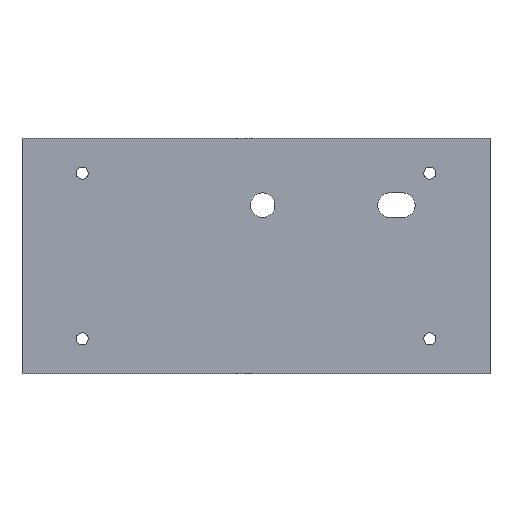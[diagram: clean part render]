
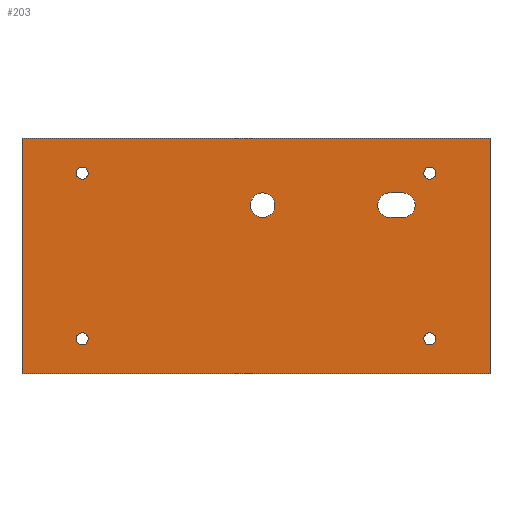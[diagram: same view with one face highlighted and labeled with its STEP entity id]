
A CAD part, top view. The second image highlights one B-rep face of the part: STEP entity #203.
In plain terms, the highlighted planar face has unit normal (0, 0, 1).
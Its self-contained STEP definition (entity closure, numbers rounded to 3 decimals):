
#32 = VERTEX_POINT('',#33);
#33 = CARTESIAN_POINT('',(0.,88.,3.));
#39 = EDGE_CURVE('',#32,#40,#42,.T.);
#40 = VERTEX_POINT('',#41);
#41 = CARTESIAN_POINT('',(0.,0.,3.));
#42 = LINE('',#43,#44);
#43 = CARTESIAN_POINT('',(0.,88.,3.));
#44 = VECTOR('',#45,1.);
#45 = DIRECTION('',(0.,-1.,0.));
#186 = VERTEX_POINT('',#187);
#187 = CARTESIAN_POINT('',(175.,0.,3.));
#193 = EDGE_CURVE('',#40,#186,#194,.T.);
#194 = LINE('',#195,#196);
#195 = CARTESIAN_POINT('',(0.,0.,3.));
#196 = VECTOR('',#197,1.);
#197 = DIRECTION('',(1.,0.,0.));
#203 = ADVANCED_FACE('',(#204,#222,#233,#244,#255,#266,#302),#313,.T.);
#204 = FACE_BOUND('',#205,.T.);
#205 = EDGE_LOOP('',(#206,#214,#215,#216));
#206 = ORIENTED_EDGE('',*,*,#207,.F.);
#207 = EDGE_CURVE('',#32,#208,#210,.T.);
#208 = VERTEX_POINT('',#209);
#209 = CARTESIAN_POINT('',(175.,88.,3.));
#210 = LINE('',#211,#212);
#211 = CARTESIAN_POINT('',(0.,88.,3.));
#212 = VECTOR('',#213,1.);
#213 = DIRECTION('',(1.,0.,0.));
#214 = ORIENTED_EDGE('',*,*,#39,.T.);
#215 = ORIENTED_EDGE('',*,*,#193,.T.);
#216 = ORIENTED_EDGE('',*,*,#217,.F.);
#217 = EDGE_CURVE('',#208,#186,#218,.T.);
#218 = LINE('',#219,#220);
#219 = CARTESIAN_POINT('',(175.,88.,3.));
#220 = VECTOR('',#221,1.);
#221 = DIRECTION('',(0.,-1.,0.));
#222 = FACE_BOUND('',#223,.T.);
#223 = EDGE_LOOP('',(#224));
#224 = ORIENTED_EDGE('',*,*,#225,.F.);
#225 = EDGE_CURVE('',#226,#226,#228,.T.);
#226 = VERTEX_POINT('',#227);
#227 = CARTESIAN_POINT('',(22.5,72.75,3.));
#228 = CIRCLE('',#229,2.25);
#229 = AXIS2_PLACEMENT_3D('',#230,#231,#232);
#230 = CARTESIAN_POINT('',(22.5,75.,3.));
#231 = DIRECTION('',(0.,0.,1.));
#232 = DIRECTION('',(0.,-1.,0.));
#233 = FACE_BOUND('',#234,.T.);
#234 = EDGE_LOOP('',(#235));
#235 = ORIENTED_EDGE('',*,*,#236,.F.);
#236 = EDGE_CURVE('',#237,#237,#239,.T.);
#237 = VERTEX_POINT('',#238);
#238 = CARTESIAN_POINT('',(22.5,10.75,3.));
#239 = CIRCLE('',#240,2.25);
#240 = AXIS2_PLACEMENT_3D('',#241,#242,#243);
#241 = CARTESIAN_POINT('',(22.5,13.,3.));
#242 = DIRECTION('',(0.,0.,1.));
#243 = DIRECTION('',(0.,-1.,0.));
#244 = FACE_BOUND('',#245,.T.);
#245 = EDGE_LOOP('',(#246));
#246 = ORIENTED_EDGE('',*,*,#247,.F.);
#247 = EDGE_CURVE('',#248,#248,#250,.T.);
#248 = VERTEX_POINT('',#249);
#249 = CARTESIAN_POINT('',(90.,58.4,3.));
#250 = CIRCLE('',#251,4.6);
#251 = AXIS2_PLACEMENT_3D('',#252,#253,#254);
#252 = CARTESIAN_POINT('',(90.,63.,3.));
#253 = DIRECTION('',(0.,0.,1.));
#254 = DIRECTION('',(0.,-1.,0.));
#255 = FACE_BOUND('',#256,.T.);
#256 = EDGE_LOOP('',(#257));
#257 = ORIENTED_EDGE('',*,*,#258,.F.);
#258 = EDGE_CURVE('',#259,#259,#261,.T.);
#259 = VERTEX_POINT('',#260);
#260 = CARTESIAN_POINT('',(152.5,72.75,3.));
#261 = CIRCLE('',#262,2.25);
#262 = AXIS2_PLACEMENT_3D('',#263,#264,#265);
#263 = CARTESIAN_POINT('',(152.5,75.,3.));
#264 = DIRECTION('',(0.,0.,1.));
#265 = DIRECTION('',(0.,-1.,0.));
#266 = FACE_BOUND('',#267,.T.);
#267 = EDGE_LOOP('',(#268,#279,#287,#296));
#268 = ORIENTED_EDGE('',*,*,#269,.F.);
#269 = EDGE_CURVE('',#270,#272,#274,.T.);
#270 = VERTEX_POINT('',#271);
#271 = CARTESIAN_POINT('',(137.6,67.6,3.));
#272 = VERTEX_POINT('',#273);
#273 = CARTESIAN_POINT('',(137.6,58.4,3.));
#274 = CIRCLE('',#275,4.6);
#275 = AXIS2_PLACEMENT_3D('',#276,#277,#278);
#276 = CARTESIAN_POINT('',(137.6,63.,3.));
#277 = DIRECTION('',(0.,0.,1.));
#278 = DIRECTION('',(0.,-1.,0.));
#279 = ORIENTED_EDGE('',*,*,#280,.T.);
#280 = EDGE_CURVE('',#270,#281,#283,.T.);
#281 = VERTEX_POINT('',#282);
#282 = CARTESIAN_POINT('',(142.4,67.6,3.));
#283 = LINE('',#284,#285);
#284 = CARTESIAN_POINT('',(68.8,67.6,3.));
#285 = VECTOR('',#286,1.);
#286 = DIRECTION('',(1.,0.,0.));
#287 = ORIENTED_EDGE('',*,*,#288,.F.);
#288 = EDGE_CURVE('',#289,#281,#291,.T.);
#289 = VERTEX_POINT('',#290);
#290 = CARTESIAN_POINT('',(142.4,58.4,3.));
#291 = CIRCLE('',#292,4.6);
#292 = AXIS2_PLACEMENT_3D('',#293,#294,#295);
#293 = CARTESIAN_POINT('',(142.4,63.,3.));
#294 = DIRECTION('',(0.,0.,1.));
#295 = DIRECTION('',(0.,-1.,0.));
#296 = ORIENTED_EDGE('',*,*,#297,.F.);
#297 = EDGE_CURVE('',#272,#289,#298,.T.);
#298 = LINE('',#299,#300);
#299 = CARTESIAN_POINT('',(68.8,58.4,3.));
#300 = VECTOR('',#301,1.);
#301 = DIRECTION('',(1.,0.,0.));
#302 = FACE_BOUND('',#303,.T.);
#303 = EDGE_LOOP('',(#304));
#304 = ORIENTED_EDGE('',*,*,#305,.F.);
#305 = EDGE_CURVE('',#306,#306,#308,.T.);
#306 = VERTEX_POINT('',#307);
#307 = CARTESIAN_POINT('',(152.5,10.75,3.));
#308 = CIRCLE('',#309,2.25);
#309 = AXIS2_PLACEMENT_3D('',#310,#311,#312);
#310 = CARTESIAN_POINT('',(152.5,13.,3.));
#311 = DIRECTION('',(0.,0.,1.));
#312 = DIRECTION('',(0.,-1.,0.));
#313 = PLANE('',#314);
#314 = AXIS2_PLACEMENT_3D('',#315,#316,#317);
#315 = CARTESIAN_POINT('',(0.,88.,3.));
#316 = DIRECTION('',(0.,0.,1.));
#317 = DIRECTION('',(0.,-1.,0.));
